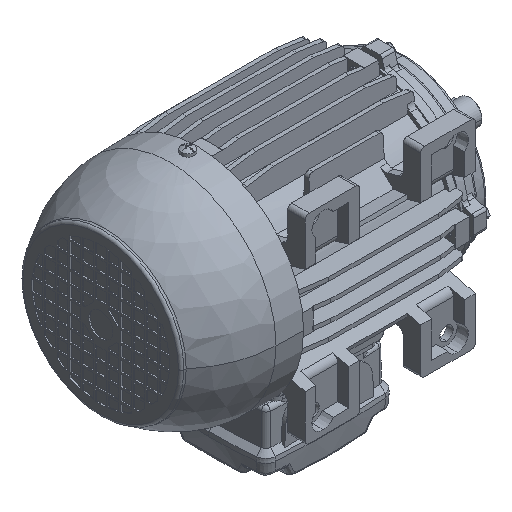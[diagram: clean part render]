
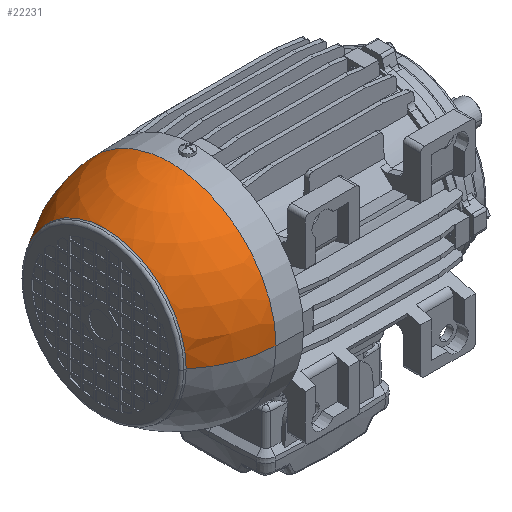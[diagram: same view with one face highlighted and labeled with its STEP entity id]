
A CAD part, isometric view. The second image highlights one B-rep face of the part: STEP entity #22231.
In plain terms, the highlighted spherical face has radius 78.912 mm.
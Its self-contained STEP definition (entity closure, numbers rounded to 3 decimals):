
#2255 = DIRECTION ( 'NONE',  ( 0., 1., 0. ) ) ;
#2256 = DIRECTION ( 'NONE',  ( 1., 0., 0. ) ) ;
#2257 = CARTESIAN_POINT ( 'NONE',  ( -84.066, 0., 0. ) ) ;
#2258 = AXIS2_PLACEMENT_3D ( 'NONE', #2257, #2256, #2255 ) ;
#2259 = CIRCLE ( 'NONE', #2258, 78.885 ) ;
#2279 = CARTESIAN_POINT ( 'NONE',  ( -84.066, 78.885, 0. ) ) ;
#2287 = DIRECTION ( 'NONE',  ( -1., 0., 0. ) ) ;
#2288 = DIRECTION ( 'NONE',  ( 0., 0., -1. ) ) ;
#2289 = CARTESIAN_POINT ( 'NONE',  ( -82., 0., 0. ) ) ;
#2290 = AXIS2_PLACEMENT_3D ( 'NONE', #2289, #2288, #2287 ) ;
#2295 = CIRCLE ( 'NONE', #2290, 78.912 ) ;
#2395 = CARTESIAN_POINT ( 'NONE',  ( -132.702, 60.467, 0. ) ) ;
#2397 = CARTESIAN_POINT ( 'NONE',  ( -132.702, -60.467, 0. ) ) ;
#2569 = DIRECTION ( 'NONE',  ( 0., 1., 0. ) ) ;
#2570 = DIRECTION ( 'NONE',  ( 1., 0., 0. ) ) ;
#2571 = CARTESIAN_POINT ( 'NONE',  ( -132.702, 0., 0. ) ) ;
#2572 = AXIS2_PLACEMENT_3D ( 'NONE', #2571, #2570, #2569 ) ;
#2573 = CIRCLE ( 'NONE', #2572, 60.467 ) ;
#4421 = DIRECTION ( 'NONE',  ( 0., -1., 0. ) ) ;
#4422 = DIRECTION ( 'NONE',  ( 0., 0., 1. ) ) ;
#4423 = CARTESIAN_POINT ( 'NONE',  ( -82., 0., 0. ) ) ;
#4424 = AXIS2_PLACEMENT_3D ( 'NONE', #4423, #4422, #4421 ) ;
#4425 = CIRCLE ( 'NONE', #4424, 78.912 ) ;
#4552 = CARTESIAN_POINT ( 'NONE',  ( -84.066, -78.885, 0. ) ) ;
#4600 = DIRECTION ( 'NONE',  ( 0., 1., 0. ) ) ;
#4601 = DIRECTION ( 'NONE',  ( 0., 0., 1. ) ) ;
#4602 = AXIS2_PLACEMENT_3D ( 'NONE', #4607, #4601, #4600 ) ;
#4604 = SPHERICAL_SURFACE ( 'NONE', #4602, 78.912 ) ;
#4607 = CARTESIAN_POINT ( 'NONE',  ( -82., 0., 0. ) ) ;
#4608 = FACE_OUTER_BOUND ( 'NONE', #22148, .T. ) ;
#21201 = EDGE_CURVE ( 'NONE', #21218, #22228, #2259, .T. ) ;
#21206 = ORIENTED_EDGE ( 'NONE', *, *, #21213, .F. ) ;
#21213 = EDGE_CURVE ( 'NONE', #21305, #21218, #2295, .T. ) ;
#21218 = VERTEX_POINT ( 'NONE', #2279 ) ;
#21303 = VERTEX_POINT ( 'NONE', #2397 ) ;
#21305 = VERTEX_POINT ( 'NONE', #2395 ) ;
#21370 = EDGE_CURVE ( 'NONE', #21305, #21303, #2573, .T. ) ;
#22148 = EDGE_LOOP ( 'NONE', ( #22226, #22227, #22174, #21206 ) ) ;
#22155 = EDGE_CURVE ( 'NONE', #21303, #22228, #4425, .T. ) ;
#22174 = ORIENTED_EDGE ( 'NONE', *, *, #21201, .F. ) ;
#22226 = ORIENTED_EDGE ( 'NONE', *, *, #21370, .T. ) ;
#22227 = ORIENTED_EDGE ( 'NONE', *, *, #22155, .T. ) ;
#22228 = VERTEX_POINT ( 'NONE', #4552 ) ;
#22231 = ADVANCED_FACE ( 'NONE', ( #4608 ), #4604, .T. ) ;
